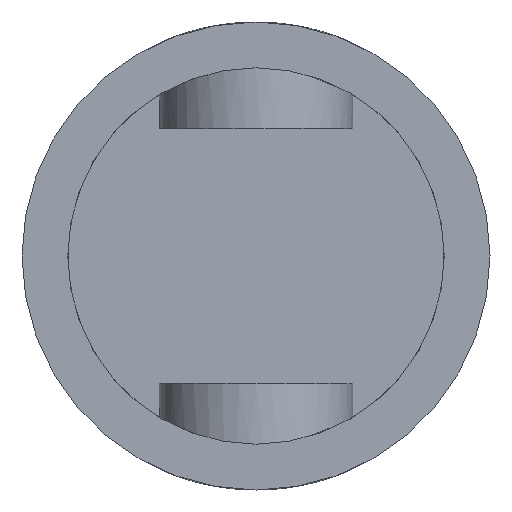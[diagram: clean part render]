
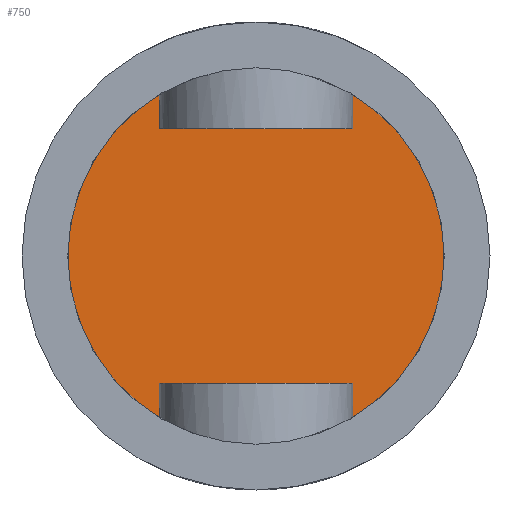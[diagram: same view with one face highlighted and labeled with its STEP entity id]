
A CAD part, front view. The second image highlights one B-rep face of the part: STEP entity #750.
In plain terms, the highlighted planar face has unit normal (0, -1, 0).
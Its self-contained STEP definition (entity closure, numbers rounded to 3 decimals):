
#29 = CIRCLE ( 'NONE', #780, 37. ) ;
#144 = DIRECTION ( 'NONE',  ( 0., 0., 1. ) ) ;
#155 = DIRECTION ( 'NONE',  ( 0., 1., 0. ) ) ;
#192 = DIRECTION ( 'NONE',  ( 0., 1., 0. ) ) ;
#413 = CARTESIAN_POINT ( 'NONE',  ( 0., -9.683, 37. ) ) ;
#565 = VERTEX_POINT ( 'NONE', #413 ) ;
#726 = AXIS2_PLACEMENT_3D ( 'NONE', #928, #155, #144 ) ;
#750 = ADVANCED_FACE ( 'NONE', ( #868 ), #1146, .F. ) ;
#764 = EDGE_LOOP ( 'NONE', ( #1264 ) ) ;
#780 = AXIS2_PLACEMENT_3D ( 'NONE', #962, #192, #1398 ) ;
#868 = FACE_OUTER_BOUND ( 'NONE', #764, .T. ) ;
#928 = CARTESIAN_POINT ( 'NONE',  ( 37., -9.683, 0. ) ) ;
#958 = EDGE_CURVE ( 'NONE', #565, #565, #29, .T. ) ;
#962 = CARTESIAN_POINT ( 'NONE',  ( 0., -9.683, 0. ) ) ;
#1146 = PLANE ( 'NONE',  #726 ) ;
#1264 = ORIENTED_EDGE ( 'NONE', *, *, #958, .F. ) ;
#1398 = DIRECTION ( 'NONE',  ( 0., 0., 1. ) ) ;
